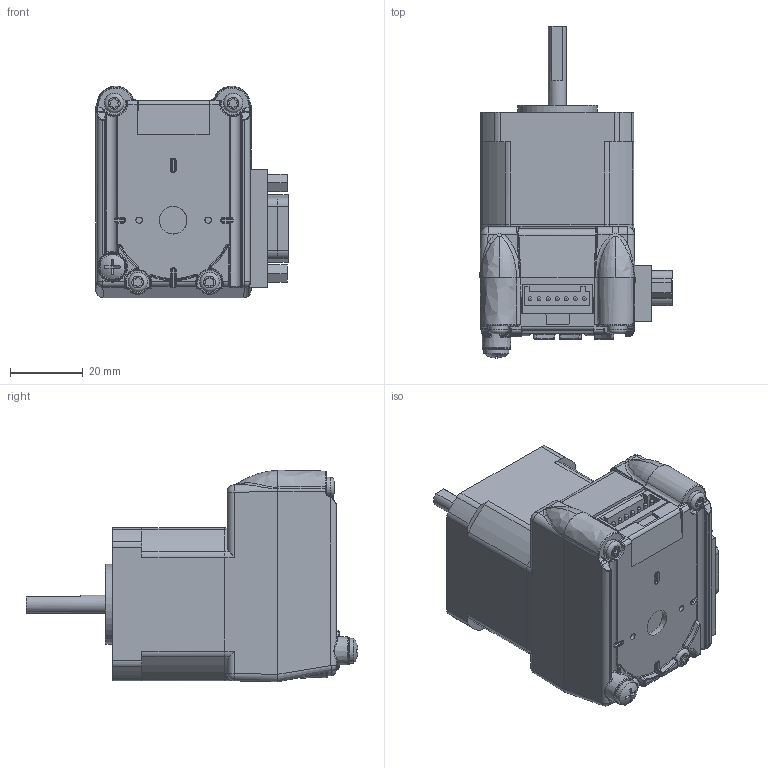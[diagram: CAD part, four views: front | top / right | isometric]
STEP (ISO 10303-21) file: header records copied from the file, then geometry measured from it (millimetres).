
FILE_DESCRIPTION(('MD17 Plus Motion Control, CANopen With DB9 Connector, Double.stp'),'1');
FILE_NAME('T:/Kubotek Models For Design Assemblies/3D Step File Models Posted on-line/MDrive17 Plus/CANopen with DB-9 connector/MD17 Plus Motion Control, CANopen With DB9 Connector, Double.stp', '2016-06-17T18:45:47',('P. Bordua, 06/17/16'), ('Schneider Electric Motion USA'), 'KCM Version 1.1.1406.0', 'Kubotek KeyCreator', 'Kubotek KeyCreator');
FILE_SCHEMA(('AUTOMOTIVE_DESIGN'));
Length unit declared in the file: inch
Bounding box: 53.01 x 91.54 x 58.35 mm (x, y, z)
Volume: 124814.6 mm3; surface area: 18276.2 mm2
Topology: 1 solids, 1 shells, 678 faces, 1700 edges, 1051 vertices
Faces by surface type: cylinder 241, plane 188, bspline 160, torus 44, sphere 26, cone 19
Full cylindrical faces by diameter (mm): 1.041 x7, 1.092 x9, 2.261 x2, 2.5 x4, 4.999 x1, 5.385 x4, 6.858 x1, 7.315 x1, 7.62 x1, 9.525 x1, 21.996 x1
Entity records: 46365 total; most frequent: CARTESIAN_POINT 29251, ORIENTED_EDGE 3362, DIRECTION 3094, EDGE_CURVE 1681, AXIS2_PLACEMENT_3D 1266, VERTEX_POINT 1051, EDGE_LOOP 724, FACE_OUTER_BOUND 678
